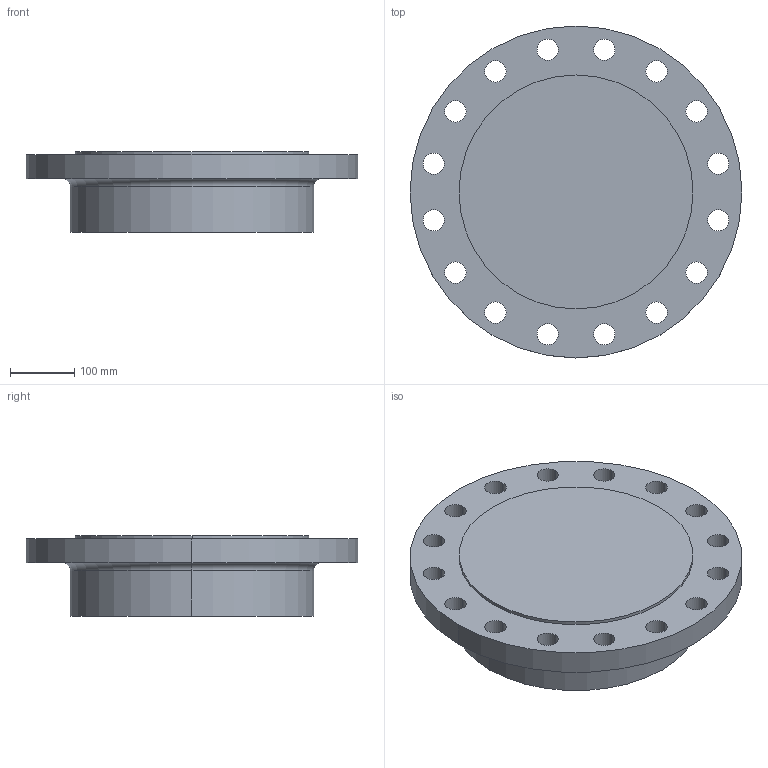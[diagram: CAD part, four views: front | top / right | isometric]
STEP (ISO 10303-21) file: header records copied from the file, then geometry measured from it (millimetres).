
FILE_DESCRIPTION (( 'STEP AP214' ), '1' );
FILE_NAME ('PN40 DN300 Type 21(i) - Type E Face.STEP', '2019-01-05T20:16:58', ( '' ), ( '' ), 'SwSTEP 2.0', 'SolidWorks 2019', '' );
FILE_SCHEMA (( 'AUTOMOTIVE_DESIGN' ));
Length unit declared in the file: millimetre
Products named in the file (1): PN40 DN300 Type 21(i) - Type E Face
Bounding box: 515 x 515 x 125 mm (x, y, z)
Volume: 17070033.3 mm3; surface area: 608696.2 mm2
Topology: 1 solids, 1 shells, 44 faces, 118 edges, 78 vertices
Faces by surface type: cylinder 38, plane 4, torus 2
Entity records: 1524 total; most frequent: DIRECTION 288, CARTESIAN_POINT 241, ORIENTED_EDGE 236, AXIS2_PLACEMENT_3D 125, EDGE_CURVE 118, CIRCLE 80, EDGE_LOOP 78, VERTEX_POINT 78
